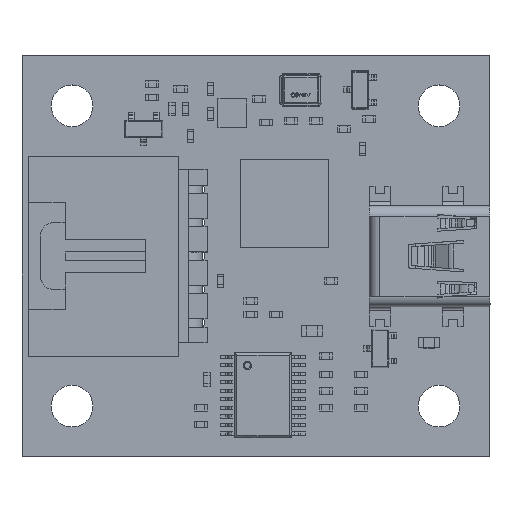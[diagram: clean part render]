
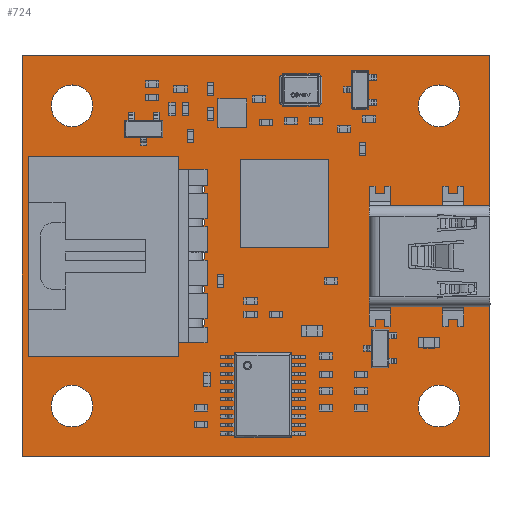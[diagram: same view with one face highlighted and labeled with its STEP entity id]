
A CAD part, top view. The second image highlights one B-rep face of the part: STEP entity #724.
In plain terms, the highlighted planar face has unit normal (0, 0, 1).
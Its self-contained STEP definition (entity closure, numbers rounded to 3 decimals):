
#199 = VERTEX_POINT('',#200);
#200 = CARTESIAN_POINT('',(0.,0.,0.));
#206 = EDGE_CURVE('',#199,#207,#209,.T.);
#207 = VERTEX_POINT('',#208);
#208 = CARTESIAN_POINT('',(0.,30.48,0.));
#209 = LINE('',#210,#211);
#210 = CARTESIAN_POINT('',(0.,0.,0.));
#211 = VECTOR('',#212,1.);
#212 = DIRECTION('',(0.,1.,0.));
#237 = EDGE_CURVE('',#207,#238,#240,.T.);
#238 = VERTEX_POINT('',#239);
#239 = CARTESIAN_POINT('',(35.56,30.48,0.));
#240 = LINE('',#241,#242);
#241 = CARTESIAN_POINT('',(0.,30.48,0.));
#242 = VECTOR('',#243,1.);
#243 = DIRECTION('',(1.,0.,0.));
#268 = EDGE_CURVE('',#238,#269,#271,.T.);
#269 = VERTEX_POINT('',#270);
#270 = CARTESIAN_POINT('',(35.56,0.,0.));
#271 = LINE('',#272,#273);
#272 = CARTESIAN_POINT('',(35.56,30.48,0.));
#273 = VECTOR('',#274,1.);
#274 = DIRECTION('',(0.,-1.,0.));
#299 = EDGE_CURVE('',#269,#199,#300,.T.);
#300 = LINE('',#301,#302);
#301 = CARTESIAN_POINT('',(35.56,0.,0.));
#302 = VECTOR('',#303,1.);
#303 = DIRECTION('',(-1.,0.,0.));
#323 = VERTEX_POINT('',#324);
#324 = CARTESIAN_POINT('',(5.398,3.81,0.));
#330 = EDGE_CURVE('',#323,#323,#331,.T.);
#331 = CIRCLE('',#332,1.588);
#332 = AXIS2_PLACEMENT_3D('',#333,#334,#335);
#333 = CARTESIAN_POINT('',(3.81,3.81,0.));
#334 = DIRECTION('',(0.,0.,1.));
#335 = DIRECTION('',(1.,0.,0.));
#356 = VERTEX_POINT('',#357);
#357 = CARTESIAN_POINT('',(13.919,10.16,0.));
#363 = EDGE_CURVE('',#356,#356,#364,.T.);
#364 = CIRCLE('',#365,0.483);
#365 = AXIS2_PLACEMENT_3D('',#366,#367,#368);
#366 = CARTESIAN_POINT('',(13.437,10.16,0.));
#367 = DIRECTION('',(0.,0.,1.));
#368 = DIRECTION('',(1.,0.,0.));
#389 = VERTEX_POINT('',#390);
#390 = CARTESIAN_POINT('',(5.398,26.67,0.));
#396 = EDGE_CURVE('',#389,#389,#397,.T.);
#397 = CIRCLE('',#398,1.588);
#398 = AXIS2_PLACEMENT_3D('',#399,#400,#401);
#399 = CARTESIAN_POINT('',(3.81,26.67,0.));
#400 = DIRECTION('',(0.,0.,1.));
#401 = DIRECTION('',(1.,0.,0.));
#422 = VERTEX_POINT('',#423);
#423 = CARTESIAN_POINT('',(13.919,12.7,0.));
#429 = EDGE_CURVE('',#422,#422,#430,.T.);
#430 = CIRCLE('',#431,0.483);
#431 = AXIS2_PLACEMENT_3D('',#432,#433,#434);
#432 = CARTESIAN_POINT('',(13.437,12.7,0.));
#433 = DIRECTION('',(0.,0.,1.));
#434 = DIRECTION('',(1.,0.,0.));
#455 = VERTEX_POINT('',#456);
#456 = CARTESIAN_POINT('',(13.919,20.32,0.));
#462 = EDGE_CURVE('',#455,#455,#463,.T.);
#463 = CIRCLE('',#464,0.483);
#464 = AXIS2_PLACEMENT_3D('',#465,#466,#467);
#465 = CARTESIAN_POINT('',(13.437,20.32,0.));
#466 = DIRECTION('',(0.,0.,1.));
#467 = DIRECTION('',(1.,0.,0.));
#488 = VERTEX_POINT('',#489);
#489 = CARTESIAN_POINT('',(13.919,15.24,0.));
#495 = EDGE_CURVE('',#488,#488,#496,.T.);
#496 = CIRCLE('',#497,0.483);
#497 = AXIS2_PLACEMENT_3D('',#498,#499,#500);
#498 = CARTESIAN_POINT('',(13.437,15.24,0.));
#499 = DIRECTION('',(0.,0.,1.));
#500 = DIRECTION('',(1.,0.,0.));
#521 = VERTEX_POINT('',#522);
#522 = CARTESIAN_POINT('',(33.338,3.81,0.));
#528 = EDGE_CURVE('',#521,#521,#529,.T.);
#529 = CIRCLE('',#530,1.588);
#530 = AXIS2_PLACEMENT_3D('',#531,#532,#533);
#531 = CARTESIAN_POINT('',(31.75,3.81,0.));
#532 = DIRECTION('',(0.,0.,1.));
#533 = DIRECTION('',(1.,0.,0.));
#554 = VERTEX_POINT('',#555);
#555 = CARTESIAN_POINT('',(30.151,13.04,0.));
#561 = EDGE_CURVE('',#554,#554,#562,.T.);
#562 = CIRCLE('',#563,0.5);
#563 = AXIS2_PLACEMENT_3D('',#564,#565,#566);
#564 = CARTESIAN_POINT('',(29.651,13.04,0.));
#565 = DIRECTION('',(0.,0.,1.));
#566 = DIRECTION('',(1.,0.,0.));
#587 = VERTEX_POINT('',#588);
#588 = CARTESIAN_POINT('',(13.919,17.78,0.));
#594 = EDGE_CURVE('',#587,#587,#595,.T.);
#595 = CIRCLE('',#596,0.483);
#596 = AXIS2_PLACEMENT_3D('',#597,#598,#599);
#597 = CARTESIAN_POINT('',(13.437,17.78,0.));
#598 = DIRECTION('',(0.,0.,1.));
#599 = DIRECTION('',(1.,0.,0.));
#620 = VERTEX_POINT('',#621);
#621 = CARTESIAN_POINT('',(30.151,17.44,0.));
#627 = EDGE_CURVE('',#620,#620,#628,.T.);
#628 = CIRCLE('',#629,0.5);
#629 = AXIS2_PLACEMENT_3D('',#630,#631,#632);
#630 = CARTESIAN_POINT('',(29.651,17.44,0.));
#631 = DIRECTION('',(0.,0.,1.));
#632 = DIRECTION('',(1.,0.,0.));
#653 = VERTEX_POINT('',#654);
#654 = CARTESIAN_POINT('',(33.338,26.67,0.));
#660 = EDGE_CURVE('',#653,#653,#661,.T.);
#661 = CIRCLE('',#662,1.588);
#662 = AXIS2_PLACEMENT_3D('',#663,#664,#665);
#663 = CARTESIAN_POINT('',(31.75,26.67,0.));
#664 = DIRECTION('',(0.,0.,1.));
#665 = DIRECTION('',(1.,0.,0.));
#724 = ADVANCED_FACE('',(#725,#731,#734,#737,#740,#743,#746,#749,#752,
    #755,#758,#761),#764,.T.);
#725 = FACE_BOUND('',#726,.F.);
#726 = EDGE_LOOP('',(#727,#728,#729,#730));
#727 = ORIENTED_EDGE('',*,*,#206,.T.);
#728 = ORIENTED_EDGE('',*,*,#237,.T.);
#729 = ORIENTED_EDGE('',*,*,#268,.T.);
#730 = ORIENTED_EDGE('',*,*,#299,.T.);
#731 = FACE_BOUND('',#732,.T.);
#732 = EDGE_LOOP('',(#733));
#733 = ORIENTED_EDGE('',*,*,#330,.F.);
#734 = FACE_BOUND('',#735,.T.);
#735 = EDGE_LOOP('',(#736));
#736 = ORIENTED_EDGE('',*,*,#363,.F.);
#737 = FACE_BOUND('',#738,.T.);
#738 = EDGE_LOOP('',(#739));
#739 = ORIENTED_EDGE('',*,*,#396,.F.);
#740 = FACE_BOUND('',#741,.T.);
#741 = EDGE_LOOP('',(#742));
#742 = ORIENTED_EDGE('',*,*,#429,.F.);
#743 = FACE_BOUND('',#744,.T.);
#744 = EDGE_LOOP('',(#745));
#745 = ORIENTED_EDGE('',*,*,#462,.F.);
#746 = FACE_BOUND('',#747,.T.);
#747 = EDGE_LOOP('',(#748));
#748 = ORIENTED_EDGE('',*,*,#495,.F.);
#749 = FACE_BOUND('',#750,.T.);
#750 = EDGE_LOOP('',(#751));
#751 = ORIENTED_EDGE('',*,*,#528,.F.);
#752 = FACE_BOUND('',#753,.T.);
#753 = EDGE_LOOP('',(#754));
#754 = ORIENTED_EDGE('',*,*,#561,.F.);
#755 = FACE_BOUND('',#756,.T.);
#756 = EDGE_LOOP('',(#757));
#757 = ORIENTED_EDGE('',*,*,#594,.F.);
#758 = FACE_BOUND('',#759,.T.);
#759 = EDGE_LOOP('',(#760));
#760 = ORIENTED_EDGE('',*,*,#627,.F.);
#761 = FACE_BOUND('',#762,.T.);
#762 = EDGE_LOOP('',(#763));
#763 = ORIENTED_EDGE('',*,*,#660,.F.);
#764 = PLANE('',#765);
#765 = AXIS2_PLACEMENT_3D('',#766,#767,#768);
#766 = CARTESIAN_POINT('',(0.,0.,0.));
#767 = DIRECTION('',(0.,0.,1.));
#768 = DIRECTION('',(1.,0.,0.));
